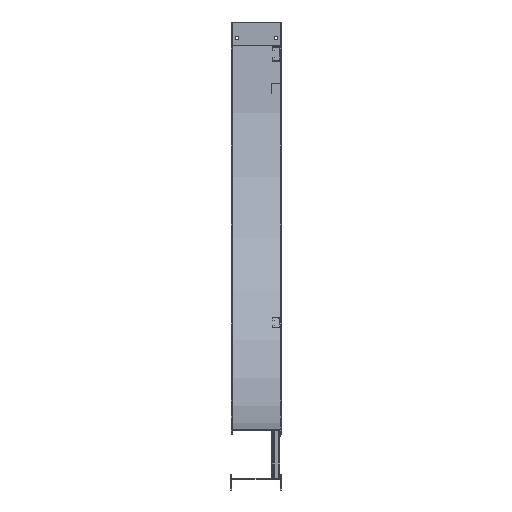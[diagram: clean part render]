
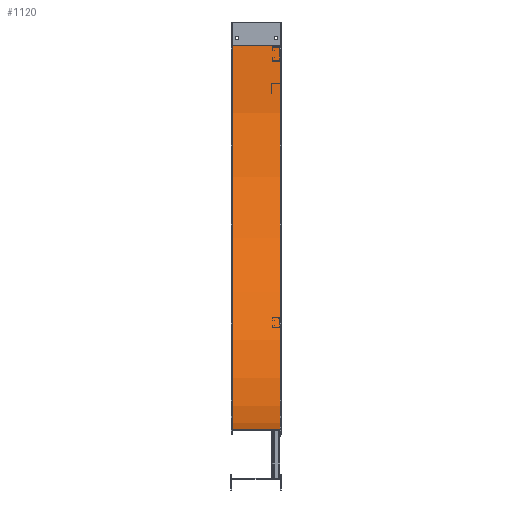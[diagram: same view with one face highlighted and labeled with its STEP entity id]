
A CAD part, left-side view. The second image highlights one B-rep face of the part: STEP entity #1120.
In plain terms, the highlighted cylindrical face has radius 1217.93 mm (diameter 2435.86 mm), a partial arc.
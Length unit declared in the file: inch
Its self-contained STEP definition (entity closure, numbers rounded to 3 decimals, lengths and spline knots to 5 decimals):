
#157=CARTESIAN_POINT('',(6.12,-48.,3.));
#158=DIRECTION('',(1.,0.,0.));
#159=DIRECTION('',(0.,1.,0.));
#160=AXIS2_PLACEMENT_3D('',#157,#158,#159);
#350=DIRECTION('',(1.,0.,0.));
#351=VECTOR('',#350,6.02);
#352=CARTESIAN_POINT('',(0.1,-48.,50.95));
#353=LINE('',#352,#351);
#390=DIRECTION('',(1.,0.,0.));
#391=VECTOR('',#390,6.02);
#392=CARTESIAN_POINT('',(0.1,-0.05,3.));
#393=LINE('',#392,#391);
#394=CARTESIAN_POINT('',(0.1,-48.,3.));
#395=DIRECTION('',(1.,0.,0.));
#396=DIRECTION('',(0.,1.,0.));
#397=AXIS2_PLACEMENT_3D('',#394,#395,#396);
#521=CARTESIAN_POINT('',(0.1,-0.05,3.));
#522=CARTESIAN_POINT('',(6.12,-0.05,3.));
#523=VERTEX_POINT('',#521);
#524=VERTEX_POINT('',#522);
#545=CARTESIAN_POINT('',(0.1,-48.,50.95));
#546=CARTESIAN_POINT('',(6.12,-48.,50.95));
#547=VERTEX_POINT('',#545);
#548=VERTEX_POINT('',#546);
#1109=CARTESIAN_POINT('',(-1.,-48.,3.));
#1110=DIRECTION('',(1.,0.,0.));
#1111=DIRECTION('',(0.,-1.,0.));
#1112=AXIS2_PLACEMENT_3D('',#1109,#1110,#1111);
#1113=CYLINDRICAL_SURFACE('',#1112,47.95);
#1114=ORIENTED_EDGE('',*,*,#894,.F.);
#1115=ORIENTED_EDGE('',*,*,#935,.T.);
#1116=ORIENTED_EDGE('',*,*,#1082,.T.);
#1117=ORIENTED_EDGE('',*,*,#872,.F.);
#1118=EDGE_LOOP('',(#1114,#1115,#1116,#1117));
#1119=FACE_OUTER_BOUND('',#1118,.F.);
#1120=ADVANCED_FACE('',(#1119),#1113,.F.);
#161=CIRCLE('',#160,47.95);
#398=CIRCLE('',#397,47.95);
#872=EDGE_CURVE('',#524,#548,#161,.T.);
#894=EDGE_CURVE('',#523,#524,#393,.T.);
#935=EDGE_CURVE('',#523,#547,#398,.T.);
#1082=EDGE_CURVE('',#547,#548,#353,.T.);
